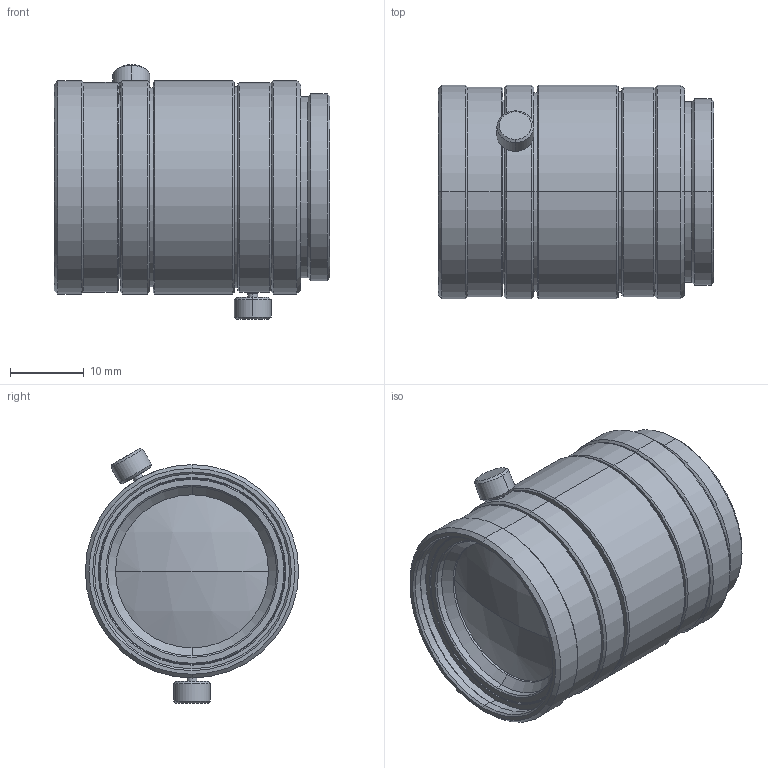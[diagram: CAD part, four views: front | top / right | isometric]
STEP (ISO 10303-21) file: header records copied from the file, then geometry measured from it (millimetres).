
FILE_DESCRIPTION (( 'STEP AP203' ), '1' );
FILE_NAME ('SV-3518V.STEP', '2014-05-14T08:41:32', ( '' ), ( '' ), 'SwSTEP 2.0', 'SolidWorks 2014', '' );
FILE_SCHEMA (( 'CONFIG_CONTROL_DESIGN' ));
Length unit declared in the file: millimetre
Products named in the file (1): SV-3518V
Bounding box: 37.5 x 29 x 34.63 mm (x, y, z)
Volume: 20858.6 mm3; surface area: 6301 mm2
Topology: 1 solids, 1 shells, 139 faces, 283 edges, 165 vertices
Faces by surface type: cone 69, cylinder 46, plane 20, sphere 4
Entity records: 3751 total; most frequent: DIRECTION 718, CARTESIAN_POINT 645, ORIENTED_EDGE 566, AXIS2_PLACEMENT_3D 302, EDGE_CURVE 283, VERTEX_POINT 165, CIRCLE 162, EDGE_LOOP 158
